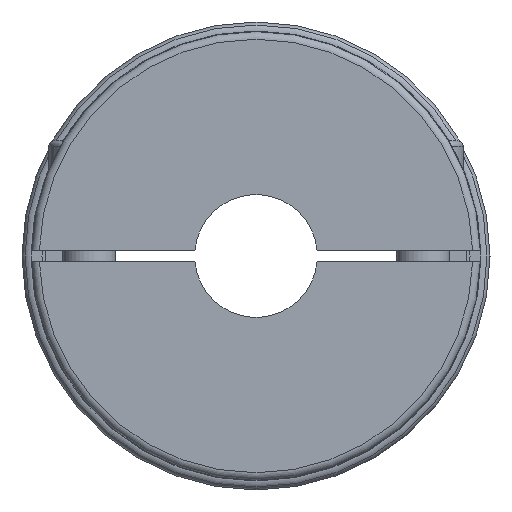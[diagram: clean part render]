
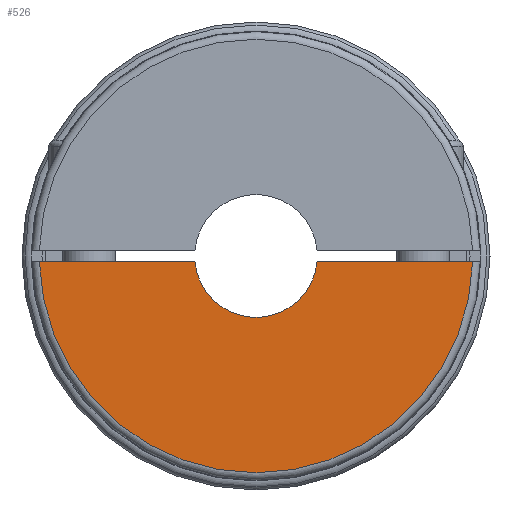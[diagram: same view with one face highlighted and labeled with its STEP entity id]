
A CAD part, left-side view. The second image highlights one B-rep face of the part: STEP entity #526.
In plain terms, the highlighted planar face has unit normal (-1, 0, 0).
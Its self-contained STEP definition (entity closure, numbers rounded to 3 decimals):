
#526 = ADVANCED_FACE( '', ( #1226 ), #1227, .T. );
#1226 = FACE_OUTER_BOUND( '', #2073, .T. );
#1227 = PLANE( '', #2074 );
#2073 = EDGE_LOOP( '', ( #3390, #3391, #3392, #3393 ) );
#2074 = AXIS2_PLACEMENT_3D( '', #3394, #3395, #3396 );
#3390 = ORIENTED_EDGE( '', *, *, #4476, .F. );
#3391 = ORIENTED_EDGE( '', *, *, #4477, .T. );
#3392 = ORIENTED_EDGE( '', *, *, #4180, .F. );
#3393 = ORIENTED_EDGE( '', *, *, #4341, .T. );
#3394 = CARTESIAN_POINT( '', ( -6., 0., 15.5 ) );
#3395 = DIRECTION( '', ( -1., 0., 0. ) );
#3396 = DIRECTION( '', ( 0., 0., 1. ) );
#4180 = EDGE_CURVE( '', #4868, #4869, #4870, .T. );
#4341 = EDGE_CURVE( '', #4868, #5111, #5113, .T. );
#4476 = EDGE_CURVE( '', #5298, #5111, #5299, .T. );
#4477 = EDGE_CURVE( '', #5298, #4869, #5300, .T. );
#4868 = VERTEX_POINT( '', #5985 );
#4869 = VERTEX_POINT( '', #5986 );
#4870 = LINE( '', #5987, #5988 );
#5111 = VERTEX_POINT( '', #6515 );
#5113 = CIRCLE( '', #6530, 56.5 );
#5298 = VERTEX_POINT( '', #6892 );
#5299 = LINE( '', #6893, #6894 );
#5300 = CIRCLE( '', #6895, 16. );
#5985 = CARTESIAN_POINT( '', ( -6., 56.48, -1.5 ) );
#5986 = CARTESIAN_POINT( '', ( -6., 15.93, -1.5 ) );
#5987 = CARTESIAN_POINT( '', ( -6., 0., -1.5 ) );
#5988 = VECTOR( '', #7601, 1000. );
#6515 = CARTESIAN_POINT( '', ( -6., -56.48, -1.5 ) );
#6530 = AXIS2_PLACEMENT_3D( '', #7815, #7816, #7817 );
#6892 = CARTESIAN_POINT( '', ( -6., -15.93, -1.5 ) );
#6893 = CARTESIAN_POINT( '', ( -6., 0., -1.5 ) );
#6894 = VECTOR( '', #7985, 1000. );
#6895 = AXIS2_PLACEMENT_3D( '', #7986, #7987, #7988 );
#7601 = DIRECTION( '', ( 0., -1., 0. ) );
#7815 = CARTESIAN_POINT( '', ( -6., 0., 0. ) );
#7816 = DIRECTION( '', ( -1., 0., 0. ) );
#7817 = DIRECTION( '', ( 0., 0., 1. ) );
#7985 = DIRECTION( '', ( 0., -1., 0. ) );
#7986 = CARTESIAN_POINT( '', ( -6., 0., 0. ) );
#7987 = DIRECTION( '', ( 1., 0., 0. ) );
#7988 = DIRECTION( '', ( 0., 1., 0. ) );
